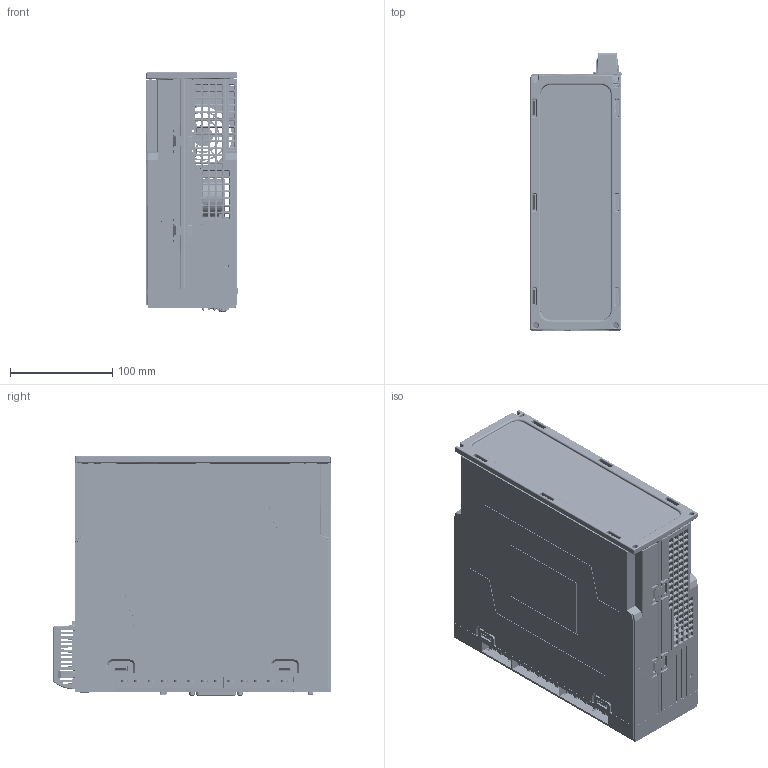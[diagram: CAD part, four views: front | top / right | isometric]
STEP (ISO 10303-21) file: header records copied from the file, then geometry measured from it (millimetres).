
FILE_DESCRIPTION((''),'2;1');
FILE_NAME('L7P_7500T_FK_ASM','2023-05-29T',('Administrator'),(''),'PRO/ENGINEER BY PARAMETRIC TECHNOLOGY CORPORATION, 2010280','PRO/ENGINEER BY PARAMETRIC TECHNOLOGY CORPORATION, 2010280','');
FILE_SCHEMA(('CONFIG_CONTROL_DESIGN','SHAPE_APPEARANCE_LAYERS_GROUPS'));
Products named in the file (31): MANIFOLD_SOLID_BREP_21900; _FF_L7P_7500T_11; FF_L7P_7500T_11_ASM_ASM_ASM_ASM; MANIFOLD_SOLID_BREP_835_1; R_L7P-7500T_2; MANIFOLD_SOLID_BREP_837_1; MANIFOLD_SOLID_BREP_838_1; MANIFOLD_SOLID_BREP_839_1; MANIFOLD_SOLID_BREP_840_1; QWA_3_1; AWQ1_2_1; ASS_ASM_2_ASM_1_ASM_ASM_ASM_ASM; _MODEL2_ASM_6_ASM_ASM_ASM_ASM; PCB_RIGHT_1_1_1; PCB_R_1; PCB_SMALL_L7__1; RJ45_2X1__1_1; FUS606_REF_1; C-2-5748482-5-A-3D_1_1; C-5788516-1-A-3D_Z_1; PCB_RIGHT_L7P_3KT_ASM_3_ASM_ASM_ASM; YKL_1; AJ_190117_____1_1; L8-7500-0927_ASM_19_ASM_ASM_ASM_ASM; PCB_DY_5; DG65R-B_1; PCB_DY_ASM_1_ASM_ASM; ASM0001_ASM_ASM_ASM; FF_L7P_7500T; L7P_7500T_ASM_ASM; L7P_7500T_FK_ASM
Assembly tree (30 placements, depth 7):
  L7P_7500T_FK_ASM
    L7P_7500T_ASM_ASM
      ASM0001_ASM_ASM_ASM
        L8-7500-0927_ASM_19_ASM_ASM_ASM_ASM
          _MODEL2_ASM_6_ASM_ASM_ASM_ASM
            FF_L7P_7500T_11_ASM_ASM_ASM_ASM
              MANIFOLD_SOLID_BREP_21900
              _FF_L7P_7500T_11
            MANIFOLD_SOLID_BREP_835_1
            R_L7P-7500T_2
            MANIFOLD_SOLID_BREP_837_1
            MANIFOLD_SOLID_BREP_838_1
            MANIFOLD_SOLID_BREP_839_1
            MANIFOLD_SOLID_BREP_840_1
            ASS_ASM_2_ASM_1_ASM_ASM_ASM_ASM
              QWA_3_1
              AWQ1_2_1
          PCB_RIGHT_L7P_3KT_ASM_3_ASM_ASM_ASM
            PCB_RIGHT_1_1_1
            PCB_R_1
            PCB_SMALL_L7__1
            RJ45_2X1__1_1
            FUS606_REF_1
            C-2-5748482-5-A-3D_1_1
            C-5788516-1-A-3D_Z_1
          YKL_1
          AJ_190117_____1_1
        PCB_DY_ASM_1_ASM_ASM
          PCB_DY_5
          DG65R-B_1
      FF_L7P_7500T
Bounding box: 89.49 x 271.03 x 233.48 mm (x, y, z)
Volume: 1375868.1 mm3; surface area: 880382.6 mm2
Topology: 21 solids, 26 shells, 10190 faces, 27268 edges, 17307 vertices
Faces by surface type: plane 6130, cylinder 2014, cone 841, torus 668, bspline 407, sphere 116, extrusion 14
Entity records: 408469 total; most frequent: CARTESIAN_POINT 89305, ORIENTED_EDGE 54175, DIRECTION 49868, EDGE_CURVE 27108, VECTOR 18872, LINE 18858, VERTEX_POINT 17307, AXIS2_PLACEMENT_3D 15498
